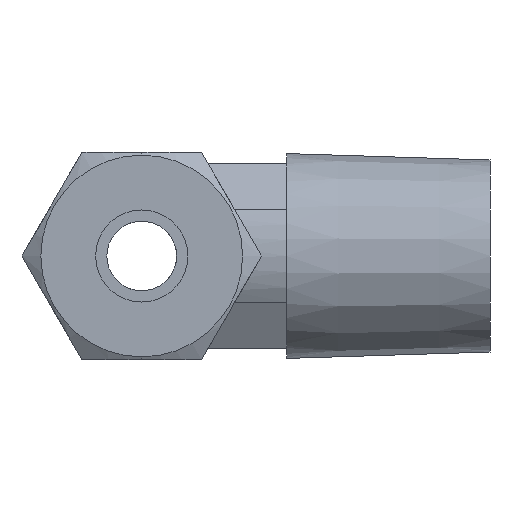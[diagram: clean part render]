
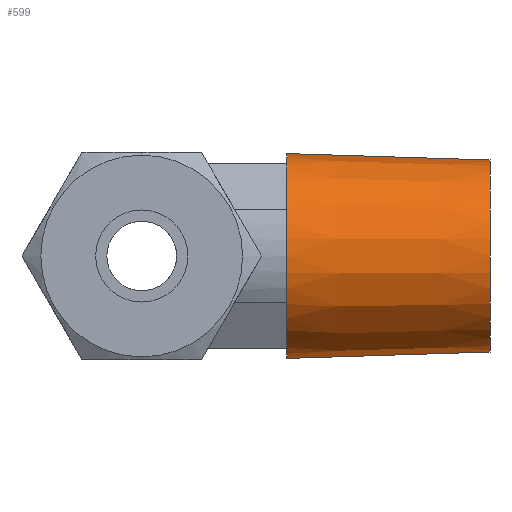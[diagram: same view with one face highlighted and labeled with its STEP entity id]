
A CAD part, left-side view. The second image highlights one B-rep face of the part: STEP entity #599.
In plain terms, the highlighted conical face has half-angle 1.8 degrees and reference radius 6.8 mm.
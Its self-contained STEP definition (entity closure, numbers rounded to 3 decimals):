
#599 = ADVANCED_FACE ( 'NONE', ( #1899 ), #1898, .T. ) ;
#600 = EDGE_LOOP ( 'NONE', ( #601, #605, #608, #794, #715, #718, #721, #724 ) ) ;
#601 = ORIENTED_EDGE ( 'NONE', *, *, #602, .F. ) ;
#602 = EDGE_CURVE ( 'NONE', #603, #604, #1952, .T. ) ;
#603 = VERTEX_POINT ( 'NONE', #1947 ) ;
#604 = VERTEX_POINT ( 'NONE', #1946 ) ;
#605 = ORIENTED_EDGE ( 'NONE', *, *, #606, .T. ) ;
#606 = EDGE_CURVE ( 'NONE', #603, #607, #1945, .T. ) ;
#607 = VERTEX_POINT ( 'NONE', #1941 ) ;
#608 = ORIENTED_EDGE ( 'NONE', *, *, #609, .T. ) ;
#609 = EDGE_CURVE ( 'NONE', #607, #610, #1940, .T. ) ;
#610 = VERTEX_POINT ( 'NONE', #1935 ) ;
#714 = EDGE_CURVE ( 'NONE', #610, #778, #2289, .T. ) ;
#715 = ORIENTED_EDGE ( 'NONE', *, *, #716, .T. ) ;
#716 = EDGE_CURVE ( 'NONE', #778, #717, #2334, .T. ) ;
#717 = VERTEX_POINT ( 'NONE', #2330 ) ;
#718 = ORIENTED_EDGE ( 'NONE', *, *, #719, .T. ) ;
#719 = EDGE_CURVE ( 'NONE', #717, #720, #2329, .T. ) ;
#720 = VERTEX_POINT ( 'NONE', #2324 ) ;
#721 = ORIENTED_EDGE ( 'NONE', *, *, #722, .T. ) ;
#722 = EDGE_CURVE ( 'NONE', #720, #723, #2323, .T. ) ;
#723 = VERTEX_POINT ( 'NONE', #2318 ) ;
#724 = ORIENTED_EDGE ( 'NONE', *, *, #725, .F. ) ;
#725 = EDGE_CURVE ( 'NONE', #604, #723, #2317, .T. ) ;
#778 = VERTEX_POINT ( 'NONE', #2409 ) ;
#794 = ORIENTED_EDGE ( 'NONE', *, *, #714, .T. ) ;
#1894 = DIRECTION ( 'NONE',  ( 0., 0., -1. ) ) ;
#1895 = DIRECTION ( 'NONE',  ( 0., 1., 0. ) ) ;
#1896 = CARTESIAN_POINT ( 'NONE',  ( 0., -18.21, 0. ) ) ;
#1897 = AXIS2_PLACEMENT_3D ( 'NONE', #1896, #1895, #1894 ) ;
#1898 = CONICAL_SURFACE ( 'NONE', #1897, 6.8, 0.031 ) ;
#1899 = FACE_OUTER_BOUND ( 'NONE', #600, .T. ) ;
#1935 = CARTESIAN_POINT ( 'NONE',  ( -3.081, -10., 6.35 ) ) ;
#1936 = DIRECTION ( 'NONE',  ( 0., 0., -1. ) ) ;
#1937 = DIRECTION ( 'NONE',  ( 0., -1., 0. ) ) ;
#1938 = CARTESIAN_POINT ( 'NONE',  ( 0., -10., 0. ) ) ;
#1939 = AXIS2_PLACEMENT_3D ( 'NONE', #1938, #1937, #1936 ) ;
#1940 = CIRCLE ( 'NONE', #1939, 7.058 ) ;
#1941 = CARTESIAN_POINT ( 'NONE',  ( 0., -10., 7.058 ) ) ;
#1942 = DIRECTION ( 'NONE',  ( 0., 1., 0.031 ) ) ;
#1943 = VECTOR ( 'NONE', #1942, 1000. ) ;
#1944 = CARTESIAN_POINT ( 'NONE',  ( 0., -18.21, 6.8 ) ) ;
#1945 = LINE ( 'NONE', #1944, #1943 ) ;
#1946 = CARTESIAN_POINT ( 'NONE',  ( 0., -24., -6.618 ) ) ;
#1947 = CARTESIAN_POINT ( 'NONE',  ( 0., -24., 6.618 ) ) ;
#1948 = DIRECTION ( 'NONE',  ( 0., 0., -1. ) ) ;
#1949 = DIRECTION ( 'NONE',  ( 0., -1., 0. ) ) ;
#1950 = CARTESIAN_POINT ( 'NONE',  ( 0., -24., 0. ) ) ;
#1951 = AXIS2_PLACEMENT_3D ( 'NONE', #1950, #1949, #1948 ) ;
#1952 = CIRCLE ( 'NONE', #1951, 6.618 ) ;
#2285 = DIRECTION ( 'NONE',  ( 0., -1., 0. ) ) ;
#2286 = CARTESIAN_POINT ( 'NONE',  ( 0., -10., 0. ) ) ;
#2287 = AXIS2_PLACEMENT_3D ( 'NONE', #2286, #2285, #2335 ) ;
#2288 = CARTESIAN_POINT ( 'NONE',  ( 0., -10., 0. ) ) ;
#2289 = CIRCLE ( 'NONE', #2287, 7.058 ) ;
#2314 = DIRECTION ( 'NONE',  ( 0., 1., -0.031 ) ) ;
#2315 = VECTOR ( 'NONE', #2314, 1000. ) ;
#2316 = CARTESIAN_POINT ( 'NONE',  ( 0., -18.21, -6.8 ) ) ;
#2317 = LINE ( 'NONE', #2316, #2315 ) ;
#2318 = CARTESIAN_POINT ( 'NONE',  ( 0., -10., -7.058 ) ) ;
#2319 = DIRECTION ( 'NONE',  ( 0., 0., -1. ) ) ;
#2320 = DIRECTION ( 'NONE',  ( 0., -1., 0. ) ) ;
#2321 = CARTESIAN_POINT ( 'NONE',  ( 0., -10., 0. ) ) ;
#2322 = AXIS2_PLACEMENT_3D ( 'NONE', #2321, #2320, #2319 ) ;
#2323 = CIRCLE ( 'NONE', #2322, 7.058 ) ;
#2324 = CARTESIAN_POINT ( 'NONE',  ( -3.081, -10., -6.35 ) ) ;
#2325 = DIRECTION ( 'NONE',  ( 0., 0., -1. ) ) ;
#2326 = DIRECTION ( 'NONE',  ( 0., -1., 0. ) ) ;
#2327 = CARTESIAN_POINT ( 'NONE',  ( 0., -10., 0. ) ) ;
#2328 = AXIS2_PLACEMENT_3D ( 'NONE', #2327, #2326, #2325 ) ;
#2329 = CIRCLE ( 'NONE', #2328, 7.058 ) ;
#2330 = CARTESIAN_POINT ( 'NONE',  ( -3.959, -10., -5.843 ) ) ;
#2331 = DIRECTION ( 'NONE',  ( 0., 0., -1. ) ) ;
#2332 = DIRECTION ( 'NONE',  ( 0., -1., 0. ) ) ;
#2333 = AXIS2_PLACEMENT_3D ( 'NONE', #2288, #2332, #2331 ) ;
#2334 = CIRCLE ( 'NONE', #2333, 7.058 ) ;
#2335 = DIRECTION ( 'NONE',  ( 0., 0., -1. ) ) ;
#2409 = CARTESIAN_POINT ( 'NONE',  ( -3.959, -10., 5.843 ) ) ;
